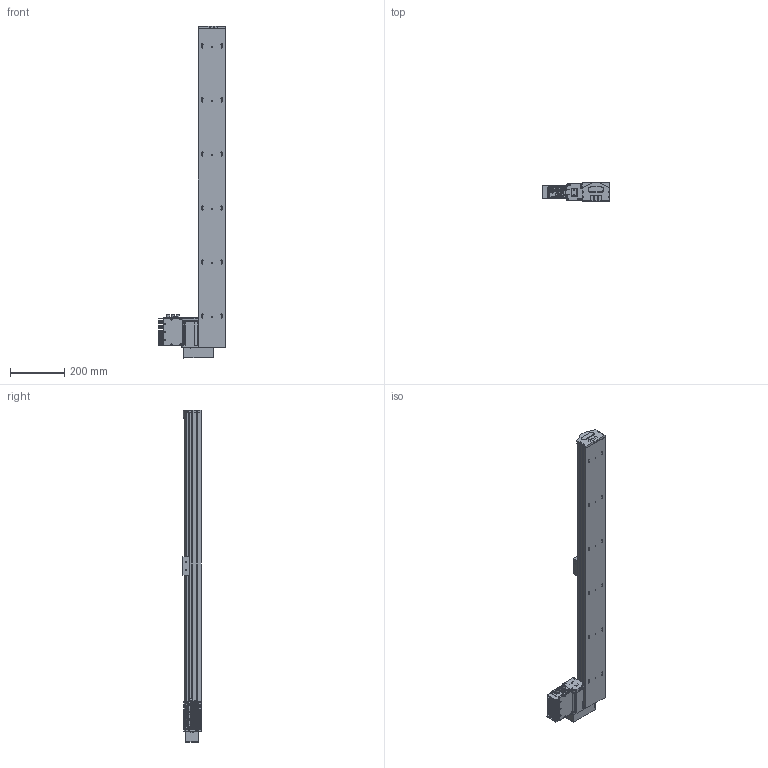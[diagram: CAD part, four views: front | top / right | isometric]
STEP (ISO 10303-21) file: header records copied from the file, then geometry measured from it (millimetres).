
FILE_DESCRIPTION (( 'STEP AP203' ), '1' );
FILE_NAME ('S10 TSN BL S1000.STEP', '2012-09-03T10:07:00', ( 'Conseil Régional Haute-Normandie' ), ( 'Conseil Régional Haute-Normandie' ), 'SwSTEP 2.0', 'SolidWorks 2010', '' );
FILE_SCHEMA (( 'CONFIG_CONTROL_DESIGN' ));
Length unit declared in the file: millimetre
Products named in the file (25): BU41 Carte Alimentation P05_3; T_X2_00F4_X0_le contre le moteur_5; T_X2_00F4_X0_le fond_3; embout_modifié; S10 TSN BL S1000; Assem1_7; Colonnette_3; BU45 Carte d''axe A11_5; Colonnette ronde_3; Moteur 60BLDC90A_3; Couvercle_3; axe1187; Connecteur rond D12 4cts_5; Sub D 9cts 90_X2_00B_X0__3; Radiateur profil_X2_00E9_X0_ 100x25_3; T_X2_00F4_X0_le Arri_X2_00E8_X0_re_5; T_X2_00F4_X0_le lat_X2_00E9_X0_rale_5; Vis TF 3 torkx_1_1; palette tbn; renvoi LH_Default; piece_plastique remplie_Default; remplir_Default; Pièce2_Default; Vis TF 3 torkx; Connecteur rond D10 3cts_5
Assembly tree (55 placements, depth 3):
  S10 TSN BL S1000
    Vis TF 3 torkx  x7
    piece_plastique remplie_Default
      Pièce2_Default
      remplir_Default  x3
      embout_modifié
    palette tbn
    renvoi LH_Default
    axe1187
    Assem1_7
      T_X2_00F4_X0_le contre le moteur_5
      BU41 Carte Alimentation P05_3
      T_X2_00F4_X0_le lat_X2_00E9_X0_rale_5  x2
      BU45 Carte d''axe A11_5
      Sub D 9cts 90_X2_00B_X0__3
      Vis TF 3 torkx_1_1  x21
      Colonnette ronde_3
      Colonnette_3  x2
      Moteur 60BLDC90A_3
      Connecteur rond D12 4cts_5
      Radiateur profil_X2_00E9_X0_ 100x25_3
      Connecteur rond D10 3cts_5  x2
      Couvercle_3
      T_X2_00F4_X0_le fond_3
      T_X2_00F4_X0_le Arri_X2_00E8_X0_re_5
Bounding box: 248 x 66.75 x 1229.5 mm (x, y, z)
Volume: 6820044.9 mm3; surface area: 823056.1 mm2
Topology: 53 solids, 53 shells, 1982 faces, 5040 edges, 3286 vertices
Faces by surface type: plane 930, cylinder 889, cone 156, bspline 4, torus 3
Entity records: 39143 total; most frequent: CARTESIAN_POINT 6608, DIRECTION 6383, ORIENTED_EDGE 5788, EDGE_CURVE 2894, AXIS2_PLACEMENT_3D 2350, VERTEX_POINT 1898, VECTOR 1683, LINE 1683
